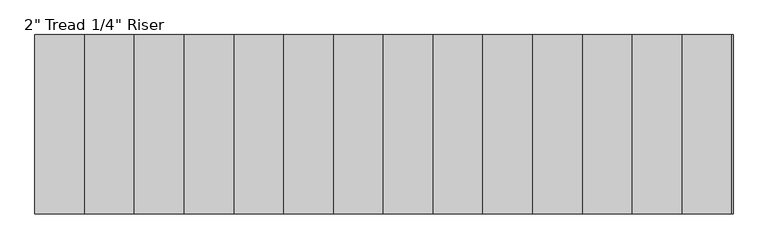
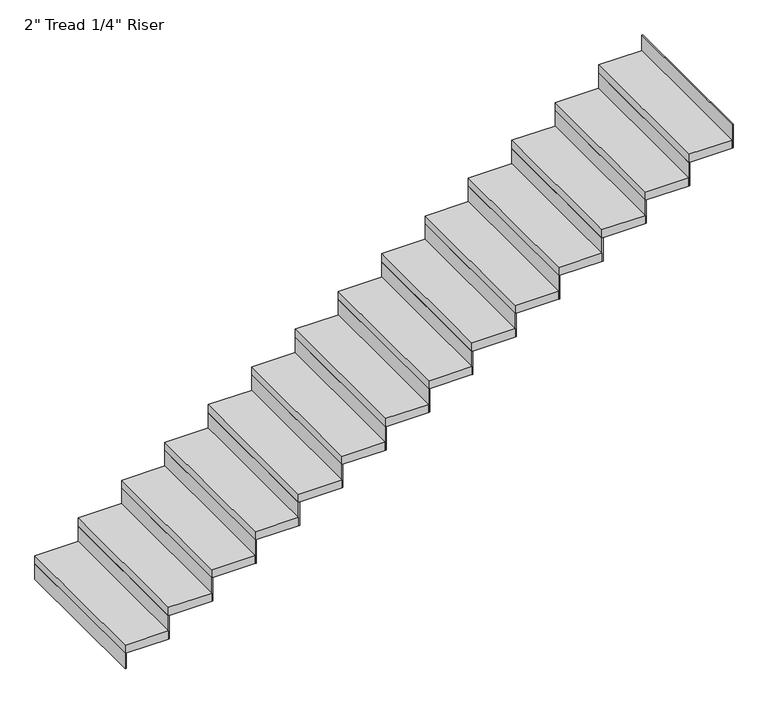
"""IFC4 building model written with IfcOpenShell, lengths in millimetres: stair flight geometry."""

from ifc_helpers import new_model, si_unit, frame, origin, origin_with_axes, place, context, project, spatial, polyline, outline, extrude, source, transform, mapped, element, save


def stair_flight_9bb0e321(model_context):
    return source(origin(), model_context, "Body", "SweptSolid", [
        extrude(outline(polyline([(29373.5491768, 43330.9361774), (29367.1991768, 43330.9361774), (29367.1991768, 44245.3361774), (29373.5491768, 44245.3361774), (29373.5491768, 43330.9361774)])), origin_with_axes(), (0.0, 0.0, 1.0), 94.3428571),
        extrude(outline(polyline([(29621.1991768, 44245.3361774), (29621.1991768, 43330.9361774), (29367.1991768, 43330.9361774), (29367.1991768, 44245.3361774), (29621.1991768, 44245.3361774)])), frame((0.0, 0.0, 94.3428571), z_axis=(0.0, 0.0, 1.0), x_axis=(1.0, 0.0, 0.0)), (0.0, 0.0, 1.0), 50.8),
        extrude(outline(polyline([(29627.5491768, 43330.9361774), (29621.1991768, 43330.9361774), (29621.1991768, 44245.3361774), (29627.5491768, 44245.3361774), (29627.5491768, 43330.9361774)])), frame((0.0, 0.0, 94.3428571), z_axis=(0.0, 0.0, 1.0), x_axis=(1.0, 0.0, 0.0)), (0.0, 0.0, 1.0), 145.1428571),
        extrude(outline(polyline([(29875.1991768, 44245.3361774), (29875.1991768, 43330.9361774), (29621.1991768, 43330.9361774), (29621.1991768, 44245.3361774), (29875.1991768, 44245.3361774)])), frame((0.0, 0.0, 239.4857143), z_axis=(0.0, 0.0, 1.0), x_axis=(1.0, 0.0, 0.0)), (0.0, 0.0, 1.0), 50.8),
        extrude(outline(polyline([(29881.5491768, 43330.9361774), (29875.1991768, 43330.9361774), (29875.1991768, 44245.3361774), (29881.5491768, 44245.3361774), (29881.5491768, 43330.9361774)])), frame((0.0, 0.0, 239.4857143), z_axis=(0.0, 0.0, 1.0), x_axis=(1.0, 0.0, 0.0)), (0.0, 0.0, 1.0), 145.1428571),
        extrude(outline(polyline([(30129.1991768, 44245.3361774), (30129.1991768, 43330.9361774), (29875.1991768, 43330.9361774), (29875.1991768, 44245.3361774), (30129.1991768, 44245.3361774)])), frame((0.0, 0.0, 384.6285714), z_axis=(0.0, 0.0, 1.0), x_axis=(1.0, 0.0, 0.0)), (0.0, 0.0, 1.0), 50.8),
        extrude(outline(polyline([(30135.5491768, 43330.9361774), (30129.1991768, 43330.9361774), (30129.1991768, 44245.3361774), (30135.5491768, 44245.3361774), (30135.5491768, 43330.9361774)])), frame((0.0, 0.0, 384.6285714), z_axis=(0.0, 0.0, 1.0), x_axis=(1.0, 0.0, 0.0)), (0.0, 0.0, 1.0), 145.1428571),
        extrude(outline(polyline([(30383.1991768, 44245.3361774), (30383.1991768, 43330.9361774), (30129.1991768, 43330.9361774), (30129.1991768, 44245.3361774), (30383.1991768, 44245.3361774)])), frame((0.0, 0.0, 529.7714286), z_axis=(0.0, 0.0, 1.0), x_axis=(1.0, 0.0, 0.0)), (0.0, 0.0, 1.0), 50.8),
        extrude(outline(polyline([(30389.5491768, 43330.9361774), (30383.1991768, 43330.9361774), (30383.1991768, 44245.3361774), (30389.5491768, 44245.3361774), (30389.5491768, 43330.9361774)])), frame((0.0, 0.0, 529.7714286), z_axis=(0.0, 0.0, 1.0), x_axis=(1.0, 0.0, 0.0)), (0.0, 0.0, 1.0), 145.1428571),
        extrude(outline(polyline([(30637.1991768, 44245.3361774), (30637.1991768, 43330.9361774), (30383.1991768, 43330.9361774), (30383.1991768, 44245.3361774), (30637.1991768, 44245.3361774)])), frame((0.0, 0.0, 674.9142857), z_axis=(0.0, 0.0, 1.0), x_axis=(1.0, 0.0, 0.0)), (0.0, 0.0, 1.0), 50.8),
        extrude(outline(polyline([(30643.5491768, 43330.9361774), (30637.1991768, 43330.9361774), (30637.1991768, 44245.3361774), (30643.5491768, 44245.3361774), (30643.5491768, 43330.9361774)])), frame((0.0, 0.0, 674.9142857), z_axis=(0.0, 0.0, 1.0), x_axis=(1.0, 0.0, 0.0)), (0.0, 0.0, 1.0), 145.1428571),
        extrude(outline(polyline([(30891.1991768, 44245.3361774), (30891.1991768, 43330.9361774), (30637.1991768, 43330.9361774), (30637.1991768, 44245.3361774), (30891.1991768, 44245.3361774)])), frame((0.0, 0.0, 820.0571429), z_axis=(0.0, 0.0, 1.0), x_axis=(1.0, 0.0, 0.0)), (0.0, 0.0, 1.0), 50.8),
        extrude(outline(polyline([(30897.5491768, 43330.9361774), (30891.1991768, 43330.9361774), (30891.1991768, 44245.3361774), (30897.5491768, 44245.3361774), (30897.5491768, 43330.9361774)])), frame((0.0, 0.0, 820.0571429), z_axis=(0.0, 0.0, 1.0), x_axis=(1.0, 0.0, 0.0)), (0.0, 0.0, 1.0), 145.1428571),
        extrude(outline(polyline([(31145.1991768, 44245.3361774), (31145.1991768, 43330.9361774), (30891.1991768, 43330.9361774), (30891.1991768, 44245.3361774), (31145.1991768, 44245.3361774)])), frame((0.0, 0.0, 965.2), z_axis=(0.0, 0.0, 1.0), x_axis=(1.0, 0.0, 0.0)), (0.0, 0.0, 1.0), 50.8),
        extrude(outline(polyline([(31151.5491768, 43330.9361774), (31145.1991768, 43330.9361774), (31145.1991768, 44245.3361774), (31151.5491768, 44245.3361774), (31151.5491768, 43330.9361774)])), frame((0.0, 0.0, 965.2), z_axis=(0.0, 0.0, 1.0), x_axis=(1.0, 0.0, 0.0)), (0.0, 0.0, 1.0), 145.1428571),
        extrude(outline(polyline([(31399.1991768, 44245.3361774), (31399.1991768, 43330.9361774), (31145.1991768, 43330.9361774), (31145.1991768, 44245.3361774), (31399.1991768, 44245.3361774)])), frame((0.0, 0.0, 1110.3428571), z_axis=(0.0, 0.0, 1.0), x_axis=(1.0, 0.0, 0.0)), (0.0, 0.0, 1.0), 50.8),
        extrude(outline(polyline([(31405.5491768, 43330.9361774), (31399.1991768, 43330.9361774), (31399.1991768, 44245.3361774), (31405.5491768, 44245.3361774), (31405.5491768, 43330.9361774)])), frame((0.0, 0.0, 1110.3428571), z_axis=(0.0, 0.0, 1.0), x_axis=(1.0, 0.0, 0.0)), (0.0, 0.0, 1.0), 145.1428571),
        extrude(outline(polyline([(31653.1991768, 44245.3361774), (31653.1991768, 43330.9361774), (31399.1991768, 43330.9361774), (31399.1991768, 44245.3361774), (31653.1991768, 44245.3361774)])), frame((0.0, 0.0, 1255.4857143), z_axis=(0.0, 0.0, 1.0), x_axis=(1.0, 0.0, 0.0)), (0.0, 0.0, 1.0), 50.8),
        extrude(outline(polyline([(31659.5491768, 43330.9361774), (31653.1991768, 43330.9361774), (31653.1991768, 44245.3361774), (31659.5491768, 44245.3361774), (31659.5491768, 43330.9361774)])), frame((0.0, 0.0, 1255.4857143), z_axis=(0.0, 0.0, 1.0), x_axis=(1.0, 0.0, 0.0)), (0.0, 0.0, 1.0), 145.1428571),
        extrude(outline(polyline([(31907.1991768, 44245.3361774), (31907.1991768, 43330.9361774), (31653.1991768, 43330.9361774), (31653.1991768, 44245.3361774), (31907.1991768, 44245.3361774)])), frame((0.0, 0.0, 1400.6285714), z_axis=(0.0, 0.0, 1.0), x_axis=(1.0, 0.0, 0.0)), (0.0, 0.0, 1.0), 50.8),
        extrude(outline(polyline([(31913.5491768, 43330.9361774), (31907.1991768, 43330.9361774), (31907.1991768, 44245.3361774), (31913.5491768, 44245.3361774), (31913.5491768, 43330.9361774)])), frame((0.0, 0.0, 1400.6285714), z_axis=(0.0, 0.0, 1.0), x_axis=(1.0, 0.0, 0.0)), (0.0, 0.0, 1.0), 145.1428571),
        extrude(outline(polyline([(32161.1991768, 44245.3361774), (32161.1991768, 43330.9361774), (31907.1991768, 43330.9361774), (31907.1991768, 44245.3361774), (32161.1991768, 44245.3361774)])), frame((0.0, 0.0, 1545.7714286), z_axis=(0.0, 0.0, 1.0), x_axis=(1.0, 0.0, 0.0)), (0.0, 0.0, 1.0), 50.8),
        extrude(outline(polyline([(32167.5491768, 43330.9361774), (32161.1991768, 43330.9361774), (32161.1991768, 44245.3361774), (32167.5491768, 44245.3361774), (32167.5491768, 43330.9361774)])), frame((0.0, 0.0, 1545.7714286), z_axis=(0.0, 0.0, 1.0), x_axis=(1.0, 0.0, 0.0)), (0.0, 0.0, 1.0), 145.1428571),
        extrude(outline(polyline([(32415.1991768, 44245.3361774), (32415.1991768, 43330.9361774), (32161.1991768, 43330.9361774), (32161.1991768, 44245.3361774), (32415.1991768, 44245.3361774)])), frame((0.0, 0.0, 1690.9142857), z_axis=(0.0, 0.0, 1.0), x_axis=(1.0, 0.0, 0.0)), (0.0, 0.0, 1.0), 50.8),
        extrude(outline(polyline([(32421.5491768, 43330.9361774), (32415.1991768, 43330.9361774), (32415.1991768, 44245.3361774), (32421.5491768, 44245.3361774), (32421.5491768, 43330.9361774)])), frame((0.0, 0.0, 1690.9142857), z_axis=(0.0, 0.0, 1.0), x_axis=(1.0, 0.0, 0.0)), (0.0, 0.0, 1.0), 145.1428571),
        extrude(outline(polyline([(32669.1991768, 44245.3361774), (32669.1991768, 43330.9361774), (32415.1991768, 43330.9361774), (32415.1991768, 44245.3361774), (32669.1991768, 44245.3361774)])), frame((0.0, 0.0, 1836.0571429), z_axis=(0.0, 0.0, 1.0), x_axis=(1.0, 0.0, 0.0)), (0.0, 0.0, 1.0), 50.8),
        extrude(outline(polyline([(32675.5491768, 43330.9361774), (32669.1991768, 43330.9361774), (32669.1991768, 44245.3361774), (32675.5491768, 44245.3361774), (32675.5491768, 43330.9361774)])), frame((0.0, 0.0, 1836.0571429), z_axis=(0.0, 0.0, 1.0), x_axis=(1.0, 0.0, 0.0)), (0.0, 0.0, 1.0), 145.1428571),
        extrude(outline(polyline([(32929.5491768, 43330.9361774), (32923.1991768, 43330.9361774), (32923.1991768, 44245.3361774), (32929.5491768, 44245.3361774), (32929.5491768, 43330.9361774)])), frame((0.0, 0.0, 1981.2), z_axis=(0.0, 0.0, 1.0), x_axis=(1.0, 0.0, 0.0)), (0.0, 0.0, 1.0), 145.1428571),
        extrude(outline(polyline([(32923.1991768, 44245.3361774), (32923.1991768, 43330.9361774), (32669.1991768, 43330.9361774), (32669.1991768, 44245.3361774), (32923.1991768, 44245.3361774)])), frame((0.0, 0.0, 1981.2), z_axis=(0.0, 0.0, 1.0), x_axis=(1.0, 0.0, 0.0)), (0.0, 0.0, 1.0), 50.8),
    ])


if __name__ == "__main__":
    model = new_model("IFC4")
    model_context = context("Model", 3, world=origin())
    ifc_project = project(units=[si_unit("LENGTHUNIT", "METRE", prefix="MILLI")], contexts=[model_context])
    site = spatial("IfcSite", under=ifc_project)
    building = spatial("IfcBuilding", under=site)
    placement = place(None, origin())
    stair_flight_shape = stair_flight_9bb0e321(model_context)
    element("IfcStairFlight", 1, ObjectType="2\" Tread 1/4\" Riser", at=placement, inside=building, context=model_context, shape_type="MappedRepresentation", body=[
        mapped(stair_flight_shape, transform((0.0, 0.0, 0.0), x_axis=(1.0, 0.0, 0.0), y_axis=(0.0, 1.0, 0.0), z_axis=(0.0, 0.0, 1.0))),
    ])
    save(model, "model.ifc")
